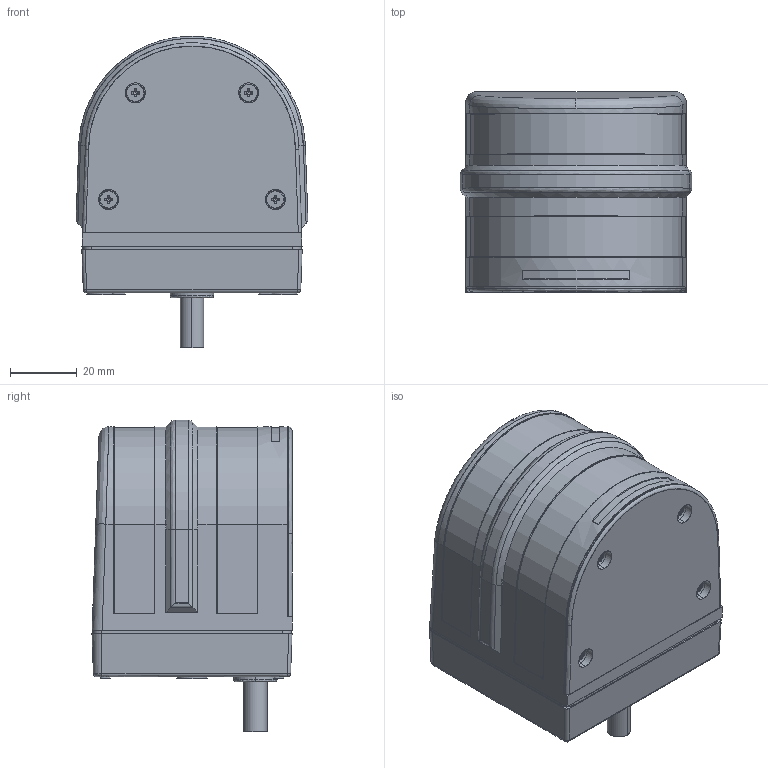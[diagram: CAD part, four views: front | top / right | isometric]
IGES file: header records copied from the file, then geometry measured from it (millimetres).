
Start section: SolidWorks IGES file using analytic representation for surfaces
Global section: file name: C:\Documents and Settings\Administrator\My Documents\3D-DATA\3D-DATA\pbs-3d\PBS-3D.IGS; native system: SolidWorks 2009; preprocessor: SolidWorks 2009; author: Administrator; date: 091030.162538; units: millimetre
Bounding box: 69.5 x 60 x 93.5 mm (x, y, z)
Surface area: 26605.6 mm2 (no closed solid volume)
Topology: 0 solids, 0 shells, 450 faces, 4169 edges, 4167 vertices
Faces by surface type: bspline 254, revolution 196
